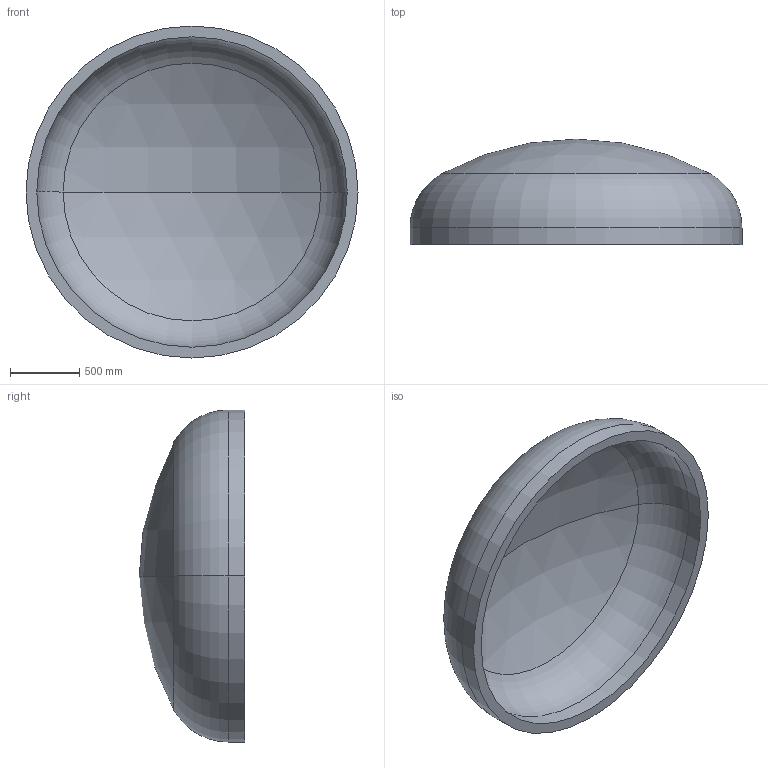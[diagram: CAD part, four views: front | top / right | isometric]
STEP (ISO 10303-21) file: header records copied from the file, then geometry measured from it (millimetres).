
FILE_DESCRIPTION (( 'STEP AP203' ), '1' );
FILE_NAME ('DIN 28013 Korbbogenform_-_Boden DIN 28013 - 2400 x 120 - I - s=78.step', '2016-07-01T15:34:42', ( '' ), ( '' ), 'SwSTEP 2.0', 'SolidWorks 2013', '' );
FILE_SCHEMA (( 'CONFIG_CONTROL_DESIGN' ));
Length unit declared in the file: millimetre
Products named in the file (1): DIN 28013 Korbbogenform_-_Boden DIN 28013 - 2400 x 120 - I - s=78
Bounding box: 2400 x 762.64 x 2400 mm (x, y, z)
Volume: 536817450.6 mm3; surface area: 14346280.8 mm2
Topology: 1 solids, 1 shells, 13 faces, 24 edges, 14 vertices
Faces by surface type: torus 4, cylinder 4, sphere 4, plane 1
Entity records: 407 total; most frequent: DIRECTION 72, CARTESIAN_POINT 52, ORIENTED_EDGE 48, AXIS2_PLACEMENT_3D 34, EDGE_CURVE 24, CIRCLE 20, VERTEX_POINT 14, EDGE_LOOP 14
